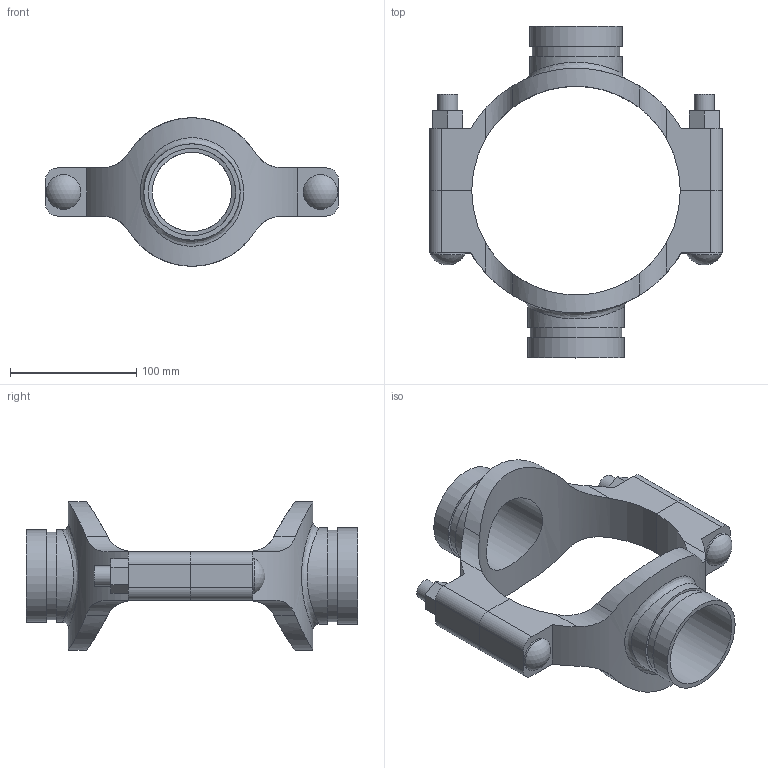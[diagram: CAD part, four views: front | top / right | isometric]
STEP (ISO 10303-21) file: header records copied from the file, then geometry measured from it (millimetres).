
FILE_DESCRIPTION(/* description */ ('VIC MECH-T BRANCH OUTLET CROSS STYLE 920N (GRVD)','CAx-IF Rec.Pracs.---Representation and Presentation of Product Manufacturing Information (PMI)---4.0---2014-10-13'),/* implementation_level */ '2;1');
FILE_NAME(/* name */ 'C:\Users\Vjadhav\AppData\Roaming\Autodesk\ApplicationPlugins\Back Up\Victaulic_IPS_Mechanical-Cross Outlet_Style 920N (OGS)\Victaulic_IPS_Mechanical-Cross Outlet_06.0 (165.1)x02.5x02.5 (76.1) (150x65x65).stp',/* time_stamp */ '2020-08-06T19:45:33+05:00',/* author */ ('Vjadhav'),/* organization */ ('Victaulic'),/* preprocessor_version */ 'ST-DEVELOPER v17.2',/* originating_system */ 'Autodesk Inventor 2019',/* authorisation */ '');
FILE_SCHEMA (('AP242_MANAGED_MODEL_BASED_3D_ENGINEERING_MIM_LF { 1 0 10303 442 1 1 4 }'));
Length unit declared in the file: inch
Products named in the file (3): 920NG-06.0 (165.1)x02.5x02.5 (76.1); 920G-06.0 (165.1)x02.5; 920G-06.0 (165.1)x02.5 (76.1)
Assembly tree (2 placements, depth 2):
  920NG-06.0 (165.1)x02.5x02.5 (76.1)
    920G-06.0 (165.1)x02.5
    920G-06.0 (165.1)x02.5 (76.1)
Bounding box: 231.9 x 262.64 x 117.6 mm (x, y, z)
Volume: 642111.2 mm3; surface area: 159489.6 mm2
Topology: 2 solids, 2 shells, 104 faces, 262 edges, 178 vertices
Faces by surface type: plane 54, cylinder 46, sphere 2, bspline 2
Full cylindrical faces by diameter (mm): 15.875 x4, 27.381 x2, 62.713 x1, 68.986 x1, 69.088 x1, 72.263 x1, 73.025 x2, 76.2 x2
Entity records: 4278 total; most frequent: CARTESIAN_POINT 1505, DIRECTION 532, ORIENTED_EDGE 524, EDGE_CURVE 262, AXIS2_PLACEMENT_3D 193, VERTEX_POINT 178, LINE 146, VECTOR 146
